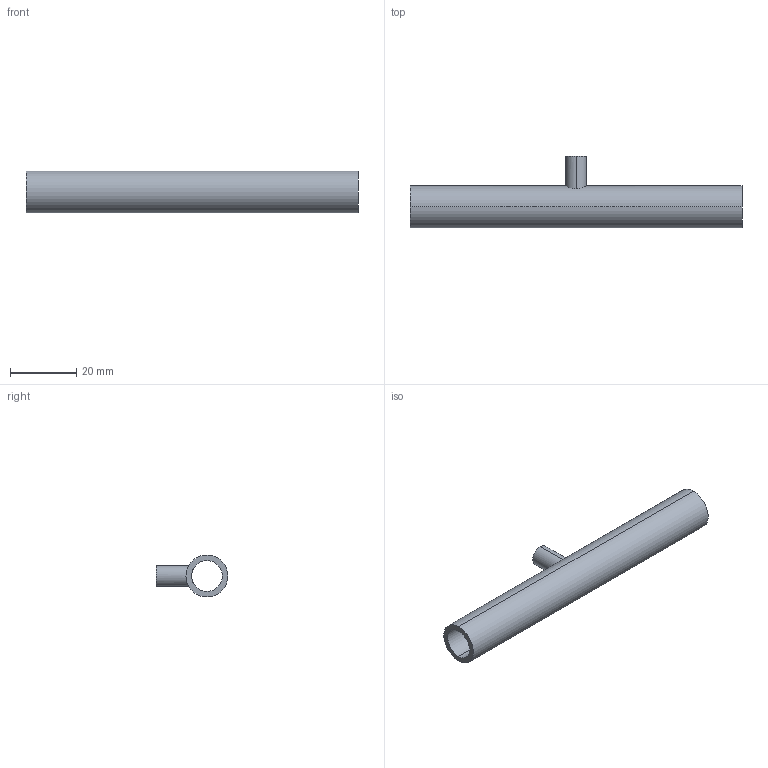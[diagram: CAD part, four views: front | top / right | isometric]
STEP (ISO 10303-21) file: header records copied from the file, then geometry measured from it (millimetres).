
FILE_DESCRIPTION (( 'STEP AP214' ), '1' );
FILE_NAME ('TEG7RS6L.5x.25-...STEP', '2016-05-24T07:54:34', ( 'eran' ), ( '' ), 'SwSTEP 2.0', 'SolidWorks 2016', '' );
FILE_SCHEMA (( 'AUTOMOTIVE_DESIGN' ));
Length unit declared in the file: millimetre
Products named in the file (1): TEG7RS6L.5x.25-..
Bounding box: 100.6 x 21.75 x 12.7 mm (x, y, z)
Volume: 5877.5 mm3; surface area: 7411.4 mm2
Topology: 1 solids, 1 shells, 11 faces, 24 edges, 16 vertices
Faces by surface type: cylinder 8, plane 3
Entity records: 460 total; most frequent: CARTESIAN_POINT 168, DIRECTION 56, ORIENTED_EDGE 48, AXIS2_PLACEMENT_3D 24, EDGE_CURVE 24, VERTEX_POINT 16, EDGE_LOOP 16, CIRCLE 12
